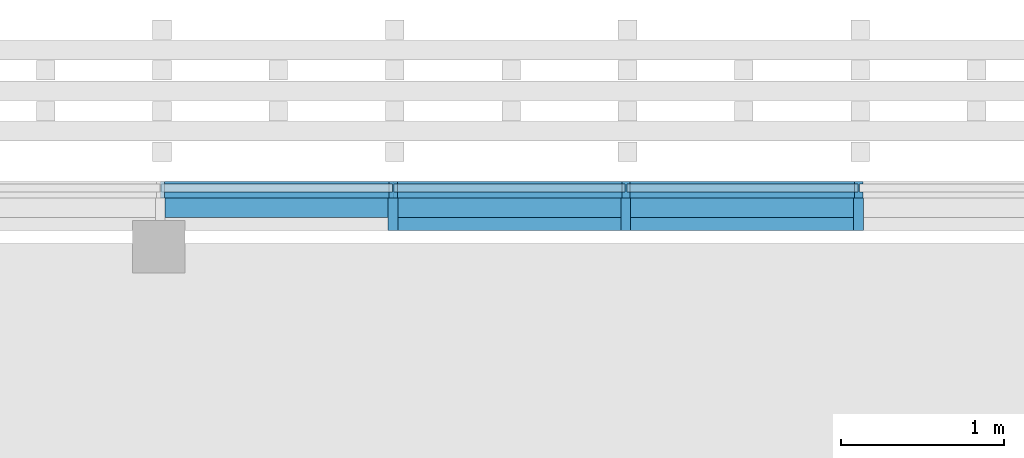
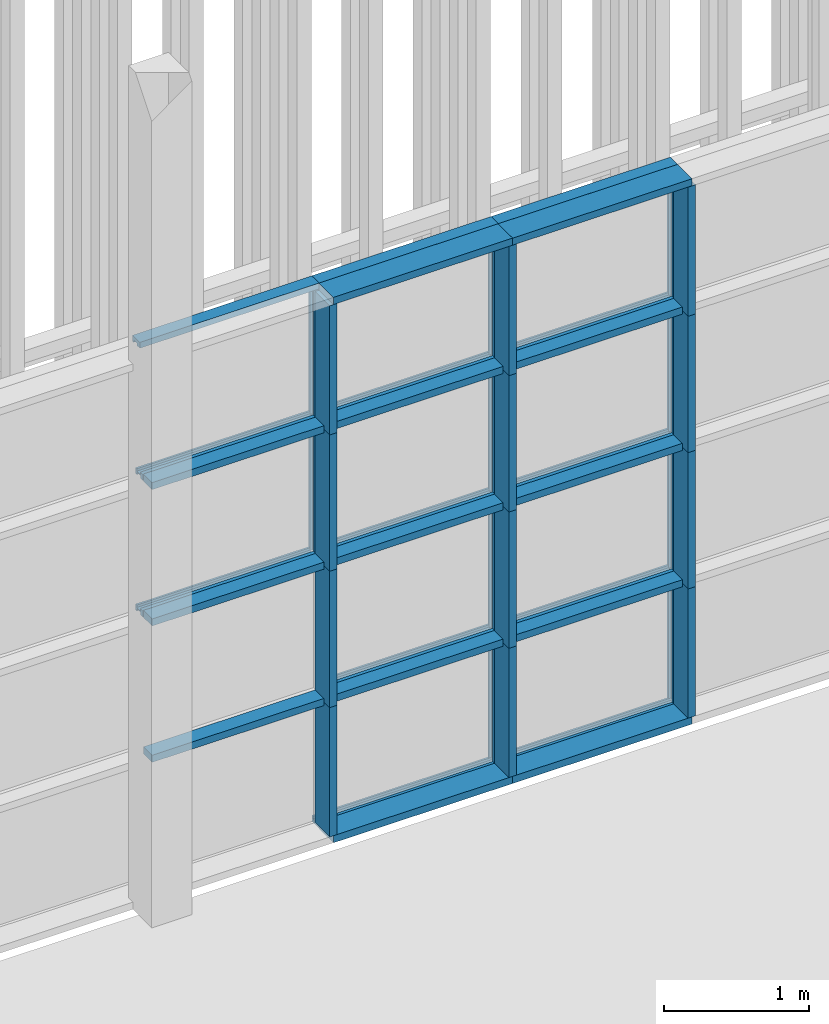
# One storey, part 33 of 260: 48 members, 2 elements without a shape of their own.
"""IFC2X3 building model written with IfcOpenShell, lengths in millimetres."""

from ifc_helpers import new_model, entity, si_unit, converted_unit, derived_unit, money_unit, direction, frame, origin_with_axes, place, context, subcontext, project, spatial, faceted_brep, source, transform, mapped, material, type_object, element, aggregate, save


model = new_model("IFC2X3")

# Units and contexts
model_context = context("Model", 3, precision=0.01, world=origin_with_axes(), true_north=direction((0.0, 1.0)))
body_context = subcontext(model_context, "Body", "Model", "MODEL_VIEW")
ifc_project = project(units=[si_unit("LENGTHUNIT", "METRE", prefix="MILLI"), si_unit("AREAUNIT", "SQUARE_METRE"), si_unit("VOLUMEUNIT", "CUBIC_METRE"), converted_unit("PLANEANGLEUNIT", "DEGREE", entity("IfcPlaneAngleMeasure", 0.0174532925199), si_unit("PLANEANGLEUNIT", "RADIAN"), dimensions=[0, 0, 0, 0, 0, 0, 0]), money_unit("EUR"), converted_unit("TIMEUNIT", "Year", entity("IfcTimeMeasure", 31556926.0), si_unit("TIMEUNIT", "SECOND"), dimensions=[0, 0, 1, 0, 0, 0, 0]), si_unit("MASSUNIT", "GRAM", prefix="KILO"), si_unit("THERMODYNAMICTEMPERATUREUNIT", "DEGREE_CELSIUS"), si_unit("LUMINOUSINTENSITYUNIT", "LUMEN"), si_unit("ENERGYUNIT", "JOULE", prefix="MEGA"), derived_unit("THERMALCONDUCTANCEUNIT", [(si_unit("POWERUNIT", "WATT"), 1), (si_unit("LENGTHUNIT", "METRE"), -1), (si_unit("THERMODYNAMICTEMPERATUREUNIT", "KELVIN"), -1)]), derived_unit("SPECIFICHEATCAPACITYUNIT", [(si_unit("ENERGYUNIT", "JOULE"), 1), (si_unit("MASSUNIT", "GRAM", prefix="KILO"), -1), (si_unit("THERMODYNAMICTEMPERATUREUNIT", "KELVIN"), -1)]), derived_unit("MASSDENSITYUNIT", [(si_unit("MASSUNIT", "GRAM", prefix="KILO"), 1), (si_unit("VOLUMEUNIT", "CUBIC_METRE"), -1)])], contexts=[model_context])

# Site, building, storey
site_placement = place(None, origin_with_axes())
site = spatial("IfcSite", under=ifc_project, at=site_placement, Name="Kolde pst 67a", CompositionType="ELEMENT")
building_placement = place(site_placement, origin_with_axes())
building = spatial("IfcBuilding", under=site, at=building_placement, Name="Riigigümnaasium", CompositionType="ELEMENT")
storey_placement = place(building_placement, origin_with_axes())
storey = spatial("IfcBuildingStorey", under=building, at=storey_placement, Name="1. korrus", CompositionType="ELEMENT", Elevation=0.0)

# Curtain wall, members
curtain_wall_type = type_object("IfcCurtainWallType", Name="Curtain Wall Type", PredefinedType="NOTDEFINED")
curtain_wall_1_placement = place(storey_placement, frame((10366.0828546, 84639.9999608, 0.0), z_axis=(0.0, 0.0, 1.0), x_axis=(1.0, 0.0, 0.0)))
curtain_wall_1 = element("IfcCurtainWall", 1, at=curtain_wall_1_placement, inside=storey, type_object=curtain_wall_type, Name="KLAASFASSAAD")
ifc_material_1 = material(Name="_METALL - alumiinium")
member_type_1 = type_object("IfcMemberType", Name="Boundary Frame 50 x 100", PredefinedType="MEMBER")
shared_shape_1 = source(origin_with_axes(), body_context, "Body", "Brep", [
    faceted_brep([(-30.0, -24.0, 1430.0), (-50.0, -24.0, 1430.0), (-50.0, -60.0, 1430.0), (0.0, -60.0, 1430.0), (0.0, 40.0, 1430.0), (-50.0, 40.0, 1430.0), (-50.0, 24.0, 1430.0), (-30.0, 24.0, 1430.0), (-30.0, -24.0, 0.0), (-50.0, -24.0, 0.0), (-50.0, -60.0, 0.0), (0.0, -60.0, 0.0), (0.0, 40.0, 0.0), (-50.0, 40.0, 0.0), (-50.0, 24.0, 0.0), (-30.0, 24.0, 0.0)], [[[0, 1, 2, 3, 4, 5, 6, 7]], [[0, 8, 9, 1]], [[9, 10, 2, 1]], [[10, 11, 3, 2]], [[11, 12, 4, 3]], [[12, 13, 5, 4]], [[6, 5, 13, 14]], [[14, 15, 7, 6]], [[7, 15, 8, 0]], [[8, 15, 14, 13, 12, 11, 10, 9]]]),
])
member_1_placement = place(curtain_wall_1_placement, frame((6435.0, 0.0, 0.0), z_axis=(1.0, 0.0, 0.0), x_axis=(0.0, 0.0, 1.0)))
member_1 = element("IfcMember", 2, at=member_1_placement, type_object=member_type_1, material=ifc_material_1, Name="RF RAAM SERV-081", ObjectType="MEMBER", context=body_context, shape_type="MappedRepresentation", body=[
    mapped(shared_shape_1, transform((0.0, 0.0, 0.0), x_axis=(-1.0, 0.0, 0.0), y_axis=(0.0, -1.0, 0.0), z_axis=(0.0, 0.0, 1.0))),
])
member_2_placement = place(curtain_wall_1_placement, frame((7865.0, 0.0, 0.0), z_axis=(1.0, 0.0, 0.0), x_axis=(0.0, 0.0, 1.0)))
member_2 = element("IfcMember", 3, at=member_2_placement, type_object=member_type_1, material=ifc_material_1, Name="RF RAAM SERV-082", ObjectType="MEMBER", context=body_context, shape_type="MappedRepresentation", body=[
    mapped(shared_shape_1, transform((0.0, 0.0, 0.0), x_axis=(-1.0, 0.0, 0.0), y_axis=(0.0, -1.0, 0.0), z_axis=(0.0, 0.0, 1.0))),
])
member_type_2 = type_object("IfcMemberType", Name="Transom Frame 50 x 100", PredefinedType="MEMBER")
shared_shape_2 = source(origin_with_axes(), body_context, "Body", "Brep", [
    faceted_brep([(5.0, -24.0, 1405.0), (5.0, 24.0, 1405.0), (25.0, 24.0, 1405.0), (25.0, 40.0, 1405.0), (-25.0, 40.0, 1405.0), (-25.0, 24.0, 1405.0), (-5.0, 24.0, 1405.0), (-5.0, -24.0, 1405.0), (-25.0, -24.0, 1405.0), (-25.0, -60.0, 1405.0), (25.0, -60.0, 1405.0), (25.0, -24.0, 1405.0), (5.0, -24.0, 25.0), (5.0, 24.0, 25.0), (25.0, 24.0, 25.0), (25.0, 40.0, 25.0), (-25.0, 40.0, 25.0), (-25.0, 24.0, 25.0), (-5.0, 24.0, 25.0), (-5.0, -24.0, 25.0), (-25.0, -24.0, 25.0), (-25.0, -60.0, 25.0), (25.0, -60.0, 25.0), (25.0, -24.0, 25.0)], [[[0, 1, 2, 3, 4, 5, 6, 7, 8, 9, 10, 11]], [[0, 12, 13, 1]], [[1, 13, 14, 2]], [[14, 15, 3, 2]], [[4, 3, 15, 16]], [[17, 5, 4, 16]], [[5, 17, 18, 6]], [[7, 6, 18, 19]], [[8, 7, 19, 20]], [[8, 20, 21, 9]], [[10, 9, 21, 22]], [[11, 10, 22, 23]], [[11, 23, 12, 0]], [[13, 12, 23, 22, 21, 20, 19, 18, 17, 16, 15, 14]]]),
])
member_3_placement = place(curtain_wall_1_placement, frame((6435.0, 0.0, 1150.0), z_axis=(1.0, 0.0, 0.0), x_axis=(0.0, 0.0, 1.0)))
member_3 = element("IfcMember", 4, at=member_3_placement, type_object=member_type_2, material=ifc_material_1, Name="RF RAAM HOR-798", ObjectType="MEMBER", context=body_context, shape_type="MappedRepresentation", body=[
    mapped(shared_shape_2, transform((0.0, 0.0, 0.0), x_axis=(-1.0, 0.0, 0.0), y_axis=(0.0, -1.0, 0.0), z_axis=(0.0, 0.0, 1.0))),
])
member_4_placement = place(curtain_wall_1_placement, frame((7865.0, 0.0, 1150.0), z_axis=(1.0, 0.0, 0.0), x_axis=(0.0, 0.0, 1.0)))
member_4 = element("IfcMember", 5, at=member_4_placement, type_object=member_type_2, material=ifc_material_1, Name="RF RAAM HOR-798", ObjectType="MEMBER", context=body_context, shape_type="MappedRepresentation", body=[
    mapped(shared_shape_2, transform((0.0, 0.0, 0.0), x_axis=(-1.0, 0.0, 0.0), y_axis=(0.0, -1.0, 0.0), z_axis=(0.0, 0.0, 1.0))),
])
member_5_placement = place(curtain_wall_1_placement, frame((5005.0, 0.0, 2300.0), z_axis=(1.0, 0.0, 0.0), x_axis=(0.0, 0.0, 1.0)))
member_5 = element("IfcMember", 6, at=member_5_placement, type_object=member_type_2, material=ifc_material_1, Name="RF RAAM HOR-798", ObjectType="MEMBER", context=body_context, shape_type="MappedRepresentation", body=[
    mapped(shared_shape_2, transform((0.0, 0.0, 0.0), x_axis=(-1.0, 0.0, 0.0), y_axis=(0.0, -1.0, 0.0), z_axis=(0.0, 0.0, 1.0))),
])
member_6_placement = place(curtain_wall_1_placement, frame((6435.0, 0.0, 2300.0), z_axis=(1.0, 0.0, 0.0), x_axis=(0.0, 0.0, 1.0)))
member_6 = element("IfcMember", 7, at=member_6_placement, type_object=member_type_2, material=ifc_material_1, Name="RF RAAM HOR-798", ObjectType="MEMBER", context=body_context, shape_type="MappedRepresentation", body=[
    mapped(shared_shape_2, transform((0.0, 0.0, 0.0), x_axis=(-1.0, 0.0, 0.0), y_axis=(0.0, -1.0, 0.0), z_axis=(0.0, 0.0, 1.0))),
])
member_7_placement = place(curtain_wall_1_placement, frame((7865.0, 0.0, 2300.0), z_axis=(1.0, 0.0, 0.0), x_axis=(0.0, 0.0, 1.0)))
member_7 = element("IfcMember", 8, at=member_7_placement, type_object=member_type_2, material=ifc_material_1, Name="RF RAAM HOR-798", ObjectType="MEMBER", context=body_context, shape_type="MappedRepresentation", body=[
    mapped(shared_shape_2, transform((0.0, 0.0, 0.0), x_axis=(-1.0, 0.0, 0.0), y_axis=(0.0, -1.0, 0.0), z_axis=(0.0, 0.0, 1.0))),
])
member_8_placement = place(curtain_wall_1_placement, frame((5005.0, 0.0, 3450.0), z_axis=(1.0, 0.0, 0.0), x_axis=(0.0, 0.0, 1.0)))
member_8 = element("IfcMember", 9, at=member_8_placement, type_object=member_type_2, material=ifc_material_1, Name="RF RAAM HOR-798", ObjectType="MEMBER", context=body_context, shape_type="MappedRepresentation", body=[
    mapped(shared_shape_2, transform((0.0, 0.0, 0.0), x_axis=(-1.0, 0.0, 0.0), y_axis=(0.0, -1.0, 0.0), z_axis=(0.0, 0.0, 1.0))),
])
member_9_placement = place(curtain_wall_1_placement, frame((6435.0, 0.0, 3450.0), z_axis=(1.0, 0.0, 0.0), x_axis=(0.0, 0.0, 1.0)))
member_9 = element("IfcMember", 10, at=member_9_placement, type_object=member_type_2, material=ifc_material_1, Name="RF RAAM HOR-798", ObjectType="MEMBER", context=body_context, shape_type="MappedRepresentation", body=[
    mapped(shared_shape_2, transform((0.0, 0.0, 0.0), x_axis=(-1.0, 0.0, 0.0), y_axis=(0.0, -1.0, 0.0), z_axis=(0.0, 0.0, 1.0))),
])
member_10_placement = place(curtain_wall_1_placement, frame((7865.0, 0.0, 3450.0), z_axis=(1.0, 0.0, 0.0), x_axis=(0.0, 0.0, 1.0)))
member_10 = element("IfcMember", 11, at=member_10_placement, type_object=member_type_2, material=ifc_material_1, Name="RF RAAM HOR-798", ObjectType="MEMBER", context=body_context, shape_type="MappedRepresentation", body=[
    mapped(shared_shape_2, transform((0.0, 0.0, 0.0), x_axis=(-1.0, 0.0, 0.0), y_axis=(0.0, -1.0, 0.0), z_axis=(0.0, 0.0, 1.0))),
])
member_type_3 = type_object("IfcMemberType", Name="Mullion Frame 50 x 100", PredefinedType="MEMBER")
shared_shape_3 = source(origin_with_axes(), body_context, "Body", "Brep", [
    faceted_brep([(5.0, -24.0, 1150.0), (5.0, 24.0, 1150.0), (25.0, 24.0, 1150.0), (25.0, 40.0, 1150.0), (-25.0, 40.0, 1150.0), (-25.0, 24.0, 1150.0), (-5.0, 24.0, 1150.0), (-5.0, -24.0, 1150.0), (-25.0, -24.0, 1150.0), (-25.0, -60.0, 1150.0), (25.0, -60.0, 1150.0), (25.0, -24.0, 1150.0), (5.0, -24.0, 50.0), (5.0, 24.0, 50.0), (25.0, 24.0, 50.0), (25.0, 40.0, 50.0), (-25.0, 40.0, 50.0), (-25.0, 24.0, 50.0), (-5.0, 24.0, 50.0), (-5.0, -24.0, 50.0), (-25.0, -24.0, 50.0), (-25.0, -60.0, 50.0), (25.0, -60.0, 50.0), (25.0, -24.0, 50.0)], [[[0, 1, 2, 3, 4, 5, 6, 7, 8, 9, 10, 11]], [[0, 12, 13, 1]], [[1, 13, 14, 2]], [[14, 15, 3, 2]], [[4, 3, 15, 16]], [[17, 5, 4, 16]], [[5, 17, 18, 6]], [[7, 6, 18, 19]], [[8, 7, 19, 20]], [[8, 20, 21, 9]], [[10, 9, 21, 22]], [[11, 10, 22, 23]], [[11, 23, 12, 0]], [[13, 12, 23, 22, 21, 20, 19, 18, 17, 16, 15, 14]]]),
])
member_11_placement = place(curtain_wall_1_placement, frame((7865.0, 0.0, 0.0), z_axis=(0.0, 0.0, 1.0), x_axis=(-1.0, 0.0, 0.0)))
member_11 = element("IfcMember", 12, at=member_11_placement, type_object=member_type_3, material=ifc_material_1, Name="RF RAAM VERT-904", ObjectType="MEMBER", context=body_context, shape_type="MappedRepresentation", body=[
    mapped(shared_shape_3, transform((0.0, 0.0, 0.0), x_axis=(-1.0, 0.0, 0.0), y_axis=(0.0, -1.0, 0.0), z_axis=(0.0, 0.0, 1.0))),
])
member_12_placement = place(curtain_wall_1_placement, frame((9295.0, 0.0, 0.0), z_axis=(0.0, 0.0, 1.0), x_axis=(-1.0, 0.0, 0.0)))
member_12 = element("IfcMember", 13, at=member_12_placement, type_object=member_type_3, material=ifc_material_1, Name="RF RAAM VERT-904", ObjectType="MEMBER", context=body_context, shape_type="MappedRepresentation", body=[
    mapped(shared_shape_3, transform((0.0, 0.0, 0.0), x_axis=(-1.0, 0.0, 0.0), y_axis=(0.0, -1.0, 0.0), z_axis=(0.0, 0.0, 1.0))),
])
shared_shape_4 = source(origin_with_axes(), body_context, "Body", "Brep", [
    faceted_brep([(5.0, -24.0, 1150.0), (5.0, 24.0, 1150.0), (25.0, 24.0, 1150.0), (25.0, 40.0, 1150.0), (-25.0, 40.0, 1150.0), (-25.0, 24.0, 1150.0), (-5.0, 24.0, 1150.0), (-5.0, -24.0, 1150.0), (-25.0, -24.0, 1150.0), (-25.0, -60.0, 1150.0), (25.0, -60.0, 1150.0), (25.0, -24.0, 1150.0), (5.0, -24.0, 0.0), (5.0, 24.0, 0.0), (25.0, 24.0, 0.0), (25.0, 40.0, 0.0), (-25.0, 40.0, 0.0), (-25.0, 24.0, 0.0), (-5.0, 24.0, 0.0), (-5.0, -24.0, 0.0), (-25.0, -24.0, 0.0), (-25.0, -60.0, 0.0), (25.0, -60.0, 0.0), (25.0, -24.0, 0.0)], [[[0, 1, 2, 3, 4, 5, 6, 7, 8, 9, 10, 11]], [[0, 12, 13, 1]], [[1, 13, 14, 2]], [[14, 15, 3, 2]], [[3, 15, 16, 4]], [[17, 5, 4, 16]], [[5, 17, 18, 6]], [[7, 6, 18, 19]], [[8, 7, 19, 20]], [[8, 20, 21, 9]], [[9, 21, 22, 10]], [[11, 10, 22, 23]], [[11, 23, 12, 0]], [[13, 12, 23, 22, 21, 20, 19, 18, 17, 16, 15, 14]]]),
])
member_13_placement = place(curtain_wall_1_placement, frame((7865.0, 0.0, 1150.0), z_axis=(0.0, 0.0, 1.0), x_axis=(-1.0, 0.0, 0.0)))
member_13 = element("IfcMember", 14, at=member_13_placement, type_object=member_type_3, material=ifc_material_1, Name="RF RAAM VERT-904", ObjectType="MEMBER", context=body_context, shape_type="MappedRepresentation", body=[
    mapped(shared_shape_4, transform((0.0, 0.0, 0.0), x_axis=(-1.0, 0.0, 0.0), y_axis=(0.0, -1.0, 0.0), z_axis=(0.0, 0.0, 1.0))),
])
member_14_placement = place(curtain_wall_1_placement, frame((9295.0, 0.0, 1150.0), z_axis=(0.0, 0.0, 1.0), x_axis=(-1.0, 0.0, 0.0)))
member_14 = element("IfcMember", 15, at=member_14_placement, type_object=member_type_3, material=ifc_material_1, Name="RF RAAM VERT-904", ObjectType="MEMBER", context=body_context, shape_type="MappedRepresentation", body=[
    mapped(shared_shape_4, transform((0.0, 0.0, 0.0), x_axis=(-1.0, 0.0, 0.0), y_axis=(0.0, -1.0, 0.0), z_axis=(0.0, 0.0, 1.0))),
])
member_15_placement = place(curtain_wall_1_placement, frame((6435.0, 0.0, 2300.0), z_axis=(0.0, 0.0, 1.0), x_axis=(-1.0, 0.0, 0.0)))
member_15 = element("IfcMember", 16, at=member_15_placement, type_object=member_type_3, material=ifc_material_1, Name="RF RAAM VERT-904", ObjectType="MEMBER", context=body_context, shape_type="MappedRepresentation", body=[
    mapped(shared_shape_4, transform((0.0, 0.0, 0.0), x_axis=(-1.0, 0.0, 0.0), y_axis=(0.0, -1.0, 0.0), z_axis=(0.0, 0.0, 1.0))),
])
member_16_placement = place(curtain_wall_1_placement, frame((7865.0, 0.0, 2300.0), z_axis=(0.0, 0.0, 1.0), x_axis=(-1.0, 0.0, 0.0)))
member_16 = element("IfcMember", 17, at=member_16_placement, type_object=member_type_3, material=ifc_material_1, Name="RF RAAM VERT-904", ObjectType="MEMBER", context=body_context, shape_type="MappedRepresentation", body=[
    mapped(shared_shape_4, transform((0.0, 0.0, 0.0), x_axis=(-1.0, 0.0, 0.0), y_axis=(0.0, -1.0, 0.0), z_axis=(0.0, 0.0, 1.0))),
])
member_17_placement = place(curtain_wall_1_placement, frame((9295.0, 0.0, 2300.0), z_axis=(0.0, 0.0, 1.0), x_axis=(-1.0, 0.0, 0.0)))
member_17 = element("IfcMember", 18, at=member_17_placement, type_object=member_type_3, material=ifc_material_1, Name="RF RAAM VERT-904", ObjectType="MEMBER", context=body_context, shape_type="MappedRepresentation", body=[
    mapped(shared_shape_4, transform((0.0, 0.0, 0.0), x_axis=(-1.0, 0.0, 0.0), y_axis=(0.0, -1.0, 0.0), z_axis=(0.0, 0.0, 1.0))),
])
shared_shape_5 = source(origin_with_axes(), body_context, "Body", "Brep", [
    faceted_brep([(5.0, -24.0, 1100.0), (5.0, 24.0, 1100.0), (25.0, 24.0, 1100.0), (25.0, 40.0, 1100.0), (-25.0, 40.0, 1100.0), (-25.0, 24.0, 1100.0), (-5.0, 24.0, 1100.0), (-5.0, -24.0, 1100.0), (-25.0, -24.0, 1100.0), (-25.0, -60.0, 1100.0), (25.0, -60.0, 1100.0), (25.0, -24.0, 1100.0), (5.0, -24.0, 0.0), (5.0, 24.0, 0.0), (25.0, 24.0, 0.0), (25.0, 40.0, 0.0), (-25.0, 40.0, 0.0), (-25.0, 24.0, 0.0), (-5.0, 24.0, 0.0), (-5.0, -24.0, 0.0), (-25.0, -24.0, 0.0), (-25.0, -60.0, 0.0), (25.0, -60.0, 0.0), (25.0, -24.0, 0.0)], [[[0, 1, 2, 3, 4, 5, 6, 7, 8, 9, 10, 11]], [[0, 12, 13, 1]], [[1, 13, 14, 2]], [[14, 15, 3, 2]], [[3, 15, 16, 4]], [[17, 5, 4, 16]], [[5, 17, 18, 6]], [[7, 6, 18, 19]], [[8, 7, 19, 20]], [[8, 20, 21, 9]], [[9, 21, 22, 10]], [[11, 10, 22, 23]], [[11, 23, 12, 0]], [[13, 12, 23, 22, 21, 20, 19, 18, 17, 16, 15, 14]]]),
])
member_18_placement = place(curtain_wall_1_placement, frame((6435.0, 0.0, 3450.0), z_axis=(0.0, 0.0, 1.0), x_axis=(-1.0, 0.0, 0.0)))
member_18 = element("IfcMember", 19, at=member_18_placement, type_object=member_type_3, material=ifc_material_1, Name="RF RAAM VERT-229", ObjectType="MEMBER", context=body_context, shape_type="MappedRepresentation", body=[
    mapped(shared_shape_5, transform((0.0, 0.0, 0.0), x_axis=(-1.0, 0.0, 0.0), y_axis=(0.0, -1.0, 0.0), z_axis=(0.0, 0.0, 1.0))),
])
member_19_placement = place(curtain_wall_1_placement, frame((7865.0, 0.0, 3450.0), z_axis=(0.0, 0.0, 1.0), x_axis=(-1.0, 0.0, 0.0)))
member_19 = element("IfcMember", 20, at=member_19_placement, type_object=member_type_3, material=ifc_material_1, Name="RF RAAM VERT-230", ObjectType="MEMBER", context=body_context, shape_type="MappedRepresentation", body=[
    mapped(shared_shape_5, transform((0.0, 0.0, 0.0), x_axis=(-1.0, 0.0, 0.0), y_axis=(0.0, -1.0, 0.0), z_axis=(0.0, 0.0, 1.0))),
])
member_20_placement = place(curtain_wall_1_placement, frame((9295.0, 0.0, 3450.0), z_axis=(0.0, 0.0, 1.0), x_axis=(-1.0, 0.0, 0.0)))
member_20 = element("IfcMember", 21, at=member_20_placement, type_object=member_type_3, material=ifc_material_1, Name="RF RAAM VERT-231", ObjectType="MEMBER", context=body_context, shape_type="MappedRepresentation", body=[
    mapped(shared_shape_5, transform((0.0, 0.0, 0.0), x_axis=(-1.0, 0.0, 0.0), y_axis=(0.0, -1.0, 0.0), z_axis=(0.0, 0.0, 1.0))),
])
shared_shape_6 = source(origin_with_axes(), body_context, "Body", "Brep", [
    faceted_brep([(30.0, -24.0, 1430.0), (30.0, 24.0, 1430.0), (50.0, 24.0, 1430.0), (50.0, 40.0, 1430.0), (0.0, 40.0, 1430.0), (0.0, -60.0, 1430.0), (50.0, -60.0, 1430.0), (50.0, -24.0, 1430.0), (30.0, -24.0, 0.0), (30.0, 24.0, 0.0), (50.0, 24.0, 0.0), (50.0, 40.0, 0.0), (0.0, 40.0, 0.0), (0.0, -60.0, 0.0), (50.0, -60.0, 0.0), (50.0, -24.0, 0.0)], [[[0, 1, 2, 3, 4, 5, 6, 7]], [[1, 0, 8, 9]], [[10, 2, 1, 9]], [[2, 10, 11, 3]], [[12, 4, 3, 11]], [[13, 5, 4, 12]], [[14, 6, 5, 13]], [[15, 7, 6, 14]], [[0, 7, 15, 8]], [[8, 15, 14, 13, 12, 11, 10, 9]]]),
])
member_21_placement = place(curtain_wall_1_placement, frame((5005.0, 0.0, 4600.0), z_axis=(1.0, 0.0, 0.0), x_axis=(0.0, 0.0, 1.0)))
member_21 = element("IfcMember", 22, at=member_21_placement, type_object=member_type_1, material=ifc_material_1, Name="RF RAAM SERV-113", ObjectType="MEMBER", context=body_context, shape_type="MappedRepresentation", body=[
    mapped(shared_shape_6, transform((0.0, 0.0, 0.0), x_axis=(-1.0, 0.0, 0.0), y_axis=(0.0, -1.0, 0.0), z_axis=(0.0, 0.0, 1.0))),
])
member_22_placement = place(curtain_wall_1_placement, frame((6435.0, 0.0, 4600.0), z_axis=(1.0, 0.0, 0.0), x_axis=(0.0, 0.0, 1.0)))
member_22 = element("IfcMember", 23, at=member_22_placement, type_object=member_type_1, material=ifc_material_1, Name="RF RAAM SERV-112", ObjectType="MEMBER", context=body_context, shape_type="MappedRepresentation", body=[
    mapped(shared_shape_6, transform((0.0, 0.0, 0.0), x_axis=(-1.0, 0.0, 0.0), y_axis=(0.0, -1.0, 0.0), z_axis=(0.0, 0.0, 1.0))),
])
member_23_placement = place(curtain_wall_1_placement, frame((7865.0, 0.0, 4600.0), z_axis=(1.0, 0.0, 0.0), x_axis=(0.0, 0.0, 1.0)))
member_23 = element("IfcMember", 24, at=member_23_placement, type_object=member_type_1, material=ifc_material_1, Name="RF RAAM SERV-111", ObjectType="MEMBER", context=body_context, shape_type="MappedRepresentation", body=[
    mapped(shared_shape_6, transform((0.0, 0.0, 0.0), x_axis=(-1.0, 0.0, 0.0), y_axis=(0.0, -1.0, 0.0), z_axis=(0.0, 0.0, 1.0))),
])
aggregate(curtain_wall_1, [member_1, member_2, member_11, member_12, member_3, member_4, member_13, member_14, member_5, member_6, member_15, member_7, member_16, member_17, member_8, member_9, member_10, member_18, member_19, member_20, member_21, member_22, member_23])

curtain_wall_2_placement = place(storey_placement, frame((7516.12873899, 84579.9999608, 0.0), z_axis=(0.0, 0.0, 1.0), x_axis=(1.0, 0.0, 0.0)))
curtain_wall_2 = element("IfcCurtainWall", 25, at=curtain_wall_2_placement, inside=storey, type_object=curtain_wall_type, Name="Klaasfassaadi puitkarkass")
ifc_material_2 = material(Name="_KANDETARIND - liimpuit vastavalt EK osale")
member_type_4 = type_object("IfcMemberType", Name="Mullion Frame 60 x 200", PredefinedType="MEMBER")
shared_shape_7 = source(origin_with_axes(), body_context, "Body", "Brep", [
    faceted_brep([(-30.0, -200.0, 0.0), (-30.0, -200.0, 1090.0), (-30.0, 0.0, 1090.0), (-30.0, 0.0, 0.0), (30.0, -200.0, 0.0), (30.0, -200.0, 1090.0), (30.0, 0.0, 1090.0), (30.0, 0.0, 0.0)], [[[0, 1, 2, 3]], [[4, 5, 1, 0]], [[1, 5, 6, 2]], [[3, 2, 6, 7]], [[0, 3, 7, 4]], [[7, 6, 5, 4]]]),
])
member_24_placement = place(curtain_wall_2_placement, frame((9283.62846741, 0.0, 3450.0), z_axis=(0.0, 0.0, 1.0), x_axis=(-1.0, 0.0, 0.0)))
member_24 = element("IfcMember", 26, at=member_24_placement, type_object=member_type_4, material=ifc_material_2, Name="RF RAAM VERT-677", ObjectType="MEMBER", context=body_context, shape_type="MappedRepresentation", body=[
    mapped(shared_shape_7, transform((0.0, 0.0, 0.0), x_axis=(-1.0, 0.0, 0.0), y_axis=(0.0, -1.0, 0.0), z_axis=(0.0, 0.0, 1.0))),
])
member_25_placement = place(curtain_wall_2_placement, frame((10713.6284674, 0.0, 3450.0), z_axis=(0.0, 0.0, 1.0), x_axis=(-1.0, 0.0, 0.0)))
member_25 = element("IfcMember", 27, at=member_25_placement, type_object=member_type_4, material=ifc_material_2, Name="RF RAAM VERT-678", ObjectType="MEMBER", context=body_context, shape_type="MappedRepresentation", body=[
    mapped(shared_shape_7, transform((0.0, 0.0, 0.0), x_axis=(-1.0, 0.0, 0.0), y_axis=(0.0, -1.0, 0.0), z_axis=(0.0, 0.0, 1.0))),
])
member_26_placement = place(curtain_wall_2_placement, frame((12143.6284674, 0.0, 3450.0), z_axis=(0.0, 0.0, 1.0), x_axis=(-1.0, 0.0, 0.0)))
member_26 = element("IfcMember", 28, at=member_26_placement, type_object=member_type_4, material=ifc_material_2, Name="RF RAAM VERT-679", ObjectType="MEMBER", context=body_context, shape_type="MappedRepresentation", body=[
    mapped(shared_shape_7, transform((0.0, 0.0, 0.0), x_axis=(-1.0, 0.0, 0.0), y_axis=(0.0, -1.0, 0.0), z_axis=(0.0, 0.0, 1.0))),
])
member_type_5 = type_object("IfcMemberType", Name="Boundary Frame 60 x 200", PredefinedType="MEMBER")
shared_shape_8 = source(origin_with_axes(), body_context, "Body", "Brep", [
    faceted_brep([(-60.0, -200.0, 0.0), (-60.0, -200.0, 1430.0), (-60.0, 0.0, 1430.0), (-60.0, 0.0, 0.0), (0.0, -200.0, 0.0), (0.0, -200.0, 1430.0), (0.0, 0.0, 1430.0), (0.0, 0.0, 0.0)], [[[0, 1, 2, 3]], [[4, 5, 1, 0]], [[1, 5, 6, 2]], [[3, 2, 6, 7]], [[0, 3, 7, 4]], [[7, 6, 5, 4]]]),
])
member_27_placement = place(curtain_wall_2_placement, frame((9283.62846741, 0.0, 0.0), z_axis=(1.0, 0.0, 0.0), x_axis=(0.0, 0.0, 1.0)))
member_27 = element("IfcMember", 29, at=member_27_placement, type_object=member_type_5, material=ifc_material_2, Name="RF RAAM SERV-417", ObjectType="MEMBER", context=body_context, shape_type="MappedRepresentation", body=[
    mapped(shared_shape_8, transform((0.0, 0.0, 0.0), x_axis=(-1.0, 0.0, 0.0), y_axis=(0.0, -1.0, 0.0), z_axis=(0.0, 0.0, 1.0))),
])
member_28_placement = place(curtain_wall_2_placement, frame((10713.6284674, 0.0, 0.0), z_axis=(1.0, 0.0, 0.0), x_axis=(0.0, 0.0, 1.0)))
member_28 = element("IfcMember", 30, at=member_28_placement, type_object=member_type_5, material=ifc_material_2, Name="RF RAAM SERV-418", ObjectType="MEMBER", context=body_context, shape_type="MappedRepresentation", body=[
    mapped(shared_shape_8, transform((0.0, 0.0, 0.0), x_axis=(-1.0, 0.0, 0.0), y_axis=(0.0, -1.0, 0.0), z_axis=(0.0, 0.0, 1.0))),
])
shared_shape_9 = source(origin_with_axes(), body_context, "Body", "Brep", [
    faceted_brep([(-30.0, 0.0, 60.0), (-30.0, -200.0, 60.0), (-30.0, -200.0, 1150.0), (-30.0, 0.0, 1150.0), (30.0, 0.0, 60.0), (30.0, -200.0, 60.0), (30.0, -200.0, 1150.0), (30.0, 0.0, 1150.0)], [[[0, 1, 2, 3]], [[1, 0, 4, 5]], [[1, 5, 6, 2]], [[2, 6, 7, 3]], [[4, 0, 3, 7]], [[5, 4, 7, 6]]]),
])
member_29_placement = place(curtain_wall_2_placement, frame((9283.62846741, 0.0, 0.0), z_axis=(0.0, 0.0, 1.0), x_axis=(-1.0, 0.0, 0.0)))
member_29 = element("IfcMember", 31, at=member_29_placement, type_object=member_type_4, material=ifc_material_2, Name="RF RAAM VERT-462", ObjectType="MEMBER", context=body_context, shape_type="MappedRepresentation", body=[
    mapped(shared_shape_9, transform((0.0, 0.0, 0.0), x_axis=(-1.0, 0.0, 0.0), y_axis=(0.0, -1.0, 0.0), z_axis=(0.0, 0.0, 1.0))),
])
member_30_placement = place(curtain_wall_2_placement, frame((10713.6284674, 0.0, 0.0), z_axis=(0.0, 0.0, 1.0), x_axis=(-1.0, 0.0, 0.0)))
member_30 = element("IfcMember", 32, at=member_30_placement, type_object=member_type_4, material=ifc_material_2, Name="RF RAAM VERT-463", ObjectType="MEMBER", context=body_context, shape_type="MappedRepresentation", body=[
    mapped(shared_shape_9, transform((0.0, 0.0, 0.0), x_axis=(-1.0, 0.0, 0.0), y_axis=(0.0, -1.0, 0.0), z_axis=(0.0, 0.0, 1.0))),
])
member_31_placement = place(curtain_wall_2_placement, frame((12143.6284674, 0.0, 0.0), z_axis=(0.0, 0.0, 1.0), x_axis=(-1.0, 0.0, 0.0)))
member_31 = element("IfcMember", 33, at=member_31_placement, type_object=member_type_4, material=ifc_material_2, Name="RF RAAM VERT-464", ObjectType="MEMBER", context=body_context, shape_type="MappedRepresentation", body=[
    mapped(shared_shape_9, transform((0.0, 0.0, 0.0), x_axis=(-1.0, 0.0, 0.0), y_axis=(0.0, -1.0, 0.0), z_axis=(0.0, 0.0, 1.0))),
])
member_type_6 = type_object("IfcMemberType", Name="Transom Frame 60 x 120", PredefinedType="MEMBER")
shared_shape_10 = source(origin_with_axes(), body_context, "Body", "Brep", [
    faceted_brep([(-30.0, 0.0, 30.0), (-30.0, -120.0, 30.0), (-30.0, -120.0, 1400.0), (-30.0, 0.0, 1400.0), (30.0, 0.0, 30.0), (30.0, -120.0, 30.0), (30.0, -120.0, 1400.0), (30.0, 0.0, 1400.0)], [[[0, 1, 2, 3]], [[1, 0, 4, 5]], [[1, 5, 6, 2]], [[2, 6, 7, 3]], [[4, 0, 3, 7]], [[5, 4, 7, 6]]]),
])
member_32_placement = place(curtain_wall_2_placement, frame((7853.62846741, 0.0, 1150.0), z_axis=(1.0, 0.0, 0.0), x_axis=(0.0, 0.0, 1.0)))
member_32 = element("IfcMember", 34, at=member_32_placement, type_object=member_type_6, material=ifc_material_2, Name="RF RAAM HOR-456", ObjectType="MEMBER", context=body_context, shape_type="MappedRepresentation", body=[
    mapped(shared_shape_10, transform((0.0, 0.0, 0.0), x_axis=(-1.0, 0.0, 0.0), y_axis=(0.0, -1.0, 0.0), z_axis=(0.0, 0.0, 1.0))),
])
member_33_placement = place(curtain_wall_2_placement, frame((9283.62846741, 0.0, 1150.0), z_axis=(1.0, 0.0, 0.0), x_axis=(0.0, 0.0, 1.0)))
member_33 = element("IfcMember", 35, at=member_33_placement, type_object=member_type_6, material=ifc_material_2, Name="RF RAAM HOR-457", ObjectType="MEMBER", context=body_context, shape_type="MappedRepresentation", body=[
    mapped(shared_shape_10, transform((0.0, 0.0, 0.0), x_axis=(-1.0, 0.0, 0.0), y_axis=(0.0, -1.0, 0.0), z_axis=(0.0, 0.0, 1.0))),
])
member_34_placement = place(curtain_wall_2_placement, frame((10713.6284674, 0.0, 1150.0), z_axis=(1.0, 0.0, 0.0), x_axis=(0.0, 0.0, 1.0)))
member_34 = element("IfcMember", 36, at=member_34_placement, type_object=member_type_6, material=ifc_material_2, Name="RF RAAM HOR-458", ObjectType="MEMBER", context=body_context, shape_type="MappedRepresentation", body=[
    mapped(shared_shape_10, transform((0.0, 0.0, 0.0), x_axis=(-1.0, 0.0, 0.0), y_axis=(0.0, -1.0, 0.0), z_axis=(0.0, 0.0, 1.0))),
])
member_35_placement = place(curtain_wall_2_placement, frame((7853.62846741, 0.0, 2300.0), z_axis=(1.0, 0.0, 0.0), x_axis=(0.0, 0.0, 1.0)))
member_35 = element("IfcMember", 37, at=member_35_placement, type_object=member_type_6, material=ifc_material_2, Name="RF RAAM HOR-479", ObjectType="MEMBER", context=body_context, shape_type="MappedRepresentation", body=[
    mapped(shared_shape_10, transform((0.0, 0.0, 0.0), x_axis=(-1.0, 0.0, 0.0), y_axis=(0.0, -1.0, 0.0), z_axis=(0.0, 0.0, 1.0))),
])
member_36_placement = place(curtain_wall_2_placement, frame((9283.62846741, 0.0, 2300.0), z_axis=(1.0, 0.0, 0.0), x_axis=(0.0, 0.0, 1.0)))
member_36 = element("IfcMember", 38, at=member_36_placement, type_object=member_type_6, material=ifc_material_2, Name="RF RAAM HOR-480", ObjectType="MEMBER", context=body_context, shape_type="MappedRepresentation", body=[
    mapped(shared_shape_10, transform((0.0, 0.0, 0.0), x_axis=(-1.0, 0.0, 0.0), y_axis=(0.0, -1.0, 0.0), z_axis=(0.0, 0.0, 1.0))),
])
member_37_placement = place(curtain_wall_2_placement, frame((10713.6284674, 0.0, 2300.0), z_axis=(1.0, 0.0, 0.0), x_axis=(0.0, 0.0, 1.0)))
member_37 = element("IfcMember", 39, at=member_37_placement, type_object=member_type_6, material=ifc_material_2, Name="RF RAAM HOR-481", ObjectType="MEMBER", context=body_context, shape_type="MappedRepresentation", body=[
    mapped(shared_shape_10, transform((0.0, 0.0, 0.0), x_axis=(-1.0, 0.0, 0.0), y_axis=(0.0, -1.0, 0.0), z_axis=(0.0, 0.0, 1.0))),
])
member_38_placement = place(curtain_wall_2_placement, frame((7853.62846741, 0.0, 3450.0), z_axis=(1.0, 0.0, 0.0), x_axis=(0.0, 0.0, 1.0)))
member_38 = element("IfcMember", 40, at=member_38_placement, type_object=member_type_6, material=ifc_material_2, Name="RF RAAM HOR-502", ObjectType="MEMBER", context=body_context, shape_type="MappedRepresentation", body=[
    mapped(shared_shape_10, transform((0.0, 0.0, 0.0), x_axis=(-1.0, 0.0, 0.0), y_axis=(0.0, -1.0, 0.0), z_axis=(0.0, 0.0, 1.0))),
])
member_39_placement = place(curtain_wall_2_placement, frame((9283.62846741, 0.0, 3450.0), z_axis=(1.0, 0.0, 0.0), x_axis=(0.0, 0.0, 1.0)))
member_39 = element("IfcMember", 41, at=member_39_placement, type_object=member_type_6, material=ifc_material_2, Name="RF RAAM HOR-503", ObjectType="MEMBER", context=body_context, shape_type="MappedRepresentation", body=[
    mapped(shared_shape_10, transform((0.0, 0.0, 0.0), x_axis=(-1.0, 0.0, 0.0), y_axis=(0.0, -1.0, 0.0), z_axis=(0.0, 0.0, 1.0))),
])
member_40_placement = place(curtain_wall_2_placement, frame((10713.6284674, 0.0, 3450.0), z_axis=(1.0, 0.0, 0.0), x_axis=(0.0, 0.0, 1.0)))
member_40 = element("IfcMember", 42, at=member_40_placement, type_object=member_type_6, material=ifc_material_2, Name="RF RAAM HOR-504", ObjectType="MEMBER", context=body_context, shape_type="MappedRepresentation", body=[
    mapped(shared_shape_10, transform((0.0, 0.0, 0.0), x_axis=(-1.0, 0.0, 0.0), y_axis=(0.0, -1.0, 0.0), z_axis=(0.0, 0.0, 1.0))),
])
shared_shape_11 = source(origin_with_axes(), body_context, "Body", "Brep", [
    faceted_brep([(-30.0, -200.0, 0.0), (-30.0, -200.0, 1150.0), (-30.0, 0.0, 1150.0), (-30.0, 0.0, 0.0), (30.0, -200.0, 0.0), (30.0, -200.0, 1150.0), (30.0, 0.0, 1150.0), (30.0, 0.0, 0.0)], [[[0, 1, 2, 3]], [[4, 5, 1, 0]], [[1, 5, 6, 2]], [[3, 2, 6, 7]], [[0, 3, 7, 4]], [[7, 6, 5, 4]]]),
])
member_41_placement = place(curtain_wall_2_placement, frame((9283.62846741, 0.0, 1150.0), z_axis=(0.0, 0.0, 1.0), x_axis=(-1.0, 0.0, 0.0)))
member_41 = element("IfcMember", 43, at=member_41_placement, type_object=member_type_4, material=ifc_material_2, Name="RF RAAM VERT-484", ObjectType="MEMBER", context=body_context, shape_type="MappedRepresentation", body=[
    mapped(shared_shape_11, transform((0.0, 0.0, 0.0), x_axis=(-1.0, 0.0, 0.0), y_axis=(0.0, -1.0, 0.0), z_axis=(0.0, 0.0, 1.0))),
])
member_42_placement = place(curtain_wall_2_placement, frame((10713.6284674, 0.0, 1150.0), z_axis=(0.0, 0.0, 1.0), x_axis=(-1.0, 0.0, 0.0)))
member_42 = element("IfcMember", 44, at=member_42_placement, type_object=member_type_4, material=ifc_material_2, Name="RF RAAM VERT-485", ObjectType="MEMBER", context=body_context, shape_type="MappedRepresentation", body=[
    mapped(shared_shape_11, transform((0.0, 0.0, 0.0), x_axis=(-1.0, 0.0, 0.0), y_axis=(0.0, -1.0, 0.0), z_axis=(0.0, 0.0, 1.0))),
])
member_43_placement = place(curtain_wall_2_placement, frame((12143.6284674, 0.0, 1150.0), z_axis=(0.0, 0.0, 1.0), x_axis=(-1.0, 0.0, 0.0)))
member_43 = element("IfcMember", 45, at=member_43_placement, type_object=member_type_4, material=ifc_material_2, Name="RF RAAM VERT-486", ObjectType="MEMBER", context=body_context, shape_type="MappedRepresentation", body=[
    mapped(shared_shape_11, transform((0.0, 0.0, 0.0), x_axis=(-1.0, 0.0, 0.0), y_axis=(0.0, -1.0, 0.0), z_axis=(0.0, 0.0, 1.0))),
])
member_44_placement = place(curtain_wall_2_placement, frame((9283.62846741, 0.0, 2300.0), z_axis=(0.0, 0.0, 1.0), x_axis=(-1.0, 0.0, 0.0)))
member_44 = element("IfcMember", 46, at=member_44_placement, type_object=member_type_4, material=ifc_material_2, Name="RF RAAM VERT-506", ObjectType="MEMBER", context=body_context, shape_type="MappedRepresentation", body=[
    mapped(shared_shape_11, transform((0.0, 0.0, 0.0), x_axis=(-1.0, 0.0, 0.0), y_axis=(0.0, -1.0, 0.0), z_axis=(0.0, 0.0, 1.0))),
])
member_45_placement = place(curtain_wall_2_placement, frame((10713.6284674, 0.0, 2300.0), z_axis=(0.0, 0.0, 1.0), x_axis=(-1.0, 0.0, 0.0)))
member_45 = element("IfcMember", 47, at=member_45_placement, type_object=member_type_4, material=ifc_material_2, Name="RF RAAM VERT-507", ObjectType="MEMBER", context=body_context, shape_type="MappedRepresentation", body=[
    mapped(shared_shape_11, transform((0.0, 0.0, 0.0), x_axis=(-1.0, 0.0, 0.0), y_axis=(0.0, -1.0, 0.0), z_axis=(0.0, 0.0, 1.0))),
])
member_46_placement = place(curtain_wall_2_placement, frame((12143.6284674, 0.0, 2300.0), z_axis=(0.0, 0.0, 1.0), x_axis=(-1.0, 0.0, 0.0)))
member_46 = element("IfcMember", 48, at=member_46_placement, type_object=member_type_4, material=ifc_material_2, Name="RF RAAM VERT-508", ObjectType="MEMBER", context=body_context, shape_type="MappedRepresentation", body=[
    mapped(shared_shape_11, transform((0.0, 0.0, 0.0), x_axis=(-1.0, 0.0, 0.0), y_axis=(0.0, -1.0, 0.0), z_axis=(0.0, 0.0, 1.0))),
])
shared_shape_12 = source(origin_with_axes(), body_context, "Body", "Brep", [
    faceted_brep([(60.0, -200.0, 0.0), (60.0, 0.0, 0.0), (60.0, 0.0, 1430.0), (60.0, -200.0, 1430.0), (0.0, -200.0, 0.0), (0.0, 0.0, 0.0), (0.0, 0.0, 1430.0), (0.0, -200.0, 1430.0)], [[[0, 1, 2, 3]], [[0, 4, 5, 1]], [[1, 5, 6, 2]], [[3, 2, 6, 7]], [[4, 0, 3, 7]], [[5, 4, 7, 6]]]),
])
member_47_placement = place(curtain_wall_2_placement, frame((9283.62846741, 0.0, 4600.0), z_axis=(1.0, 0.0, 0.0), x_axis=(0.0, 0.0, 1.0)))
member_47 = element("IfcMember", 49, at=member_47_placement, type_object=member_type_5, material=ifc_material_2, Name="RF RAAM SERV-448", ObjectType="MEMBER", context=body_context, shape_type="MappedRepresentation", body=[
    mapped(shared_shape_12, transform((0.0, 0.0, 0.0), x_axis=(-1.0, 0.0, 0.0), y_axis=(0.0, -1.0, 0.0), z_axis=(0.0, 0.0, 1.0))),
])
member_48_placement = place(curtain_wall_2_placement, frame((10713.6284674, 0.0, 4600.0), z_axis=(1.0, 0.0, 0.0), x_axis=(0.0, 0.0, 1.0)))
member_48 = element("IfcMember", 50, at=member_48_placement, type_object=member_type_5, material=ifc_material_2, Name="RF RAAM SERV-447", ObjectType="MEMBER", context=body_context, shape_type="MappedRepresentation", body=[
    mapped(shared_shape_12, transform((0.0, 0.0, 0.0), x_axis=(-1.0, 0.0, 0.0), y_axis=(0.0, -1.0, 0.0), z_axis=(0.0, 0.0, 1.0))),
])
aggregate(curtain_wall_2, [member_27, member_29, member_28, member_30, member_31, member_32, member_33, member_41, member_34, member_42, member_43, member_35, member_36, member_44, member_37, member_45, member_46, member_38, member_39, member_40, member_24, member_25, member_26, member_47, member_48])

save(model, "model.ifc")
